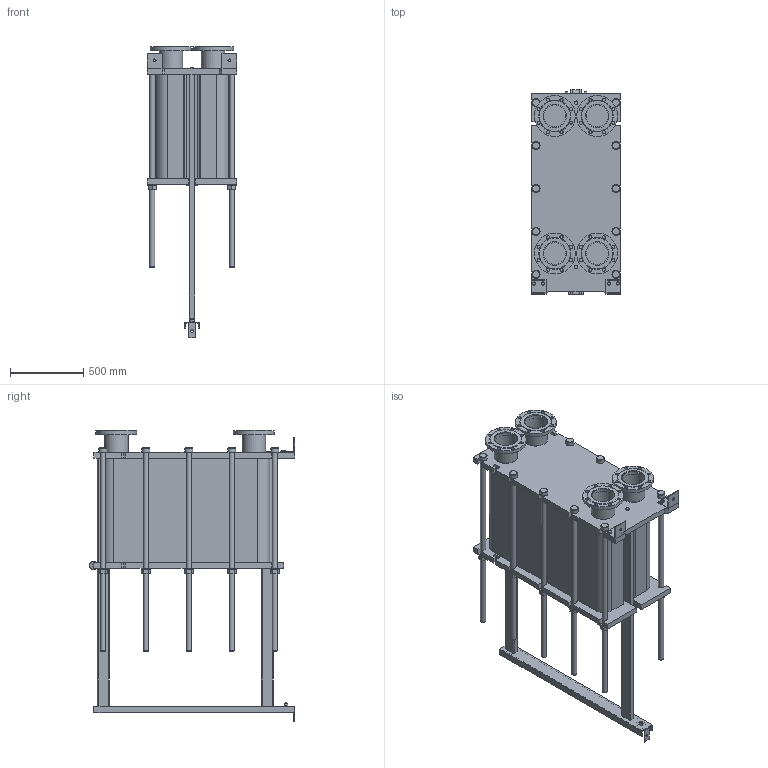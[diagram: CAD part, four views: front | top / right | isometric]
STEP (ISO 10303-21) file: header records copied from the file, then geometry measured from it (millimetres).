
FILE_DESCRIPTION(/* description */ (''),/* implementation_level */ '2;1');
FILE_NAME(/* name */ 'C:\Users\zhuro\Desktop\ENCO\TO\ЭН-041\ЭН-0,5-041-207-1.stp',/* time_stamp */ '2022-06-06T11:06:41+03:00',/* author */ ('zhuro'),/* organization */ (''),/* preprocessor_version */ 'ST-DEVELOPER v18.1',/* originating_system */ 'Autodesk Inventor 2022',/* authorisation */ '');
FILE_SCHEMA (('AUTOMOTIVE_DESIGN { 1 0 10303 214 3 1 1 }'));
Length unit declared in the file: millimetre
Products named in the file (1): ЭН-0,5-041-207-1
Bounding box: 610 x 1406.5 x 1992.5 mm (x, y, z)
Volume: 489656898.3 mm3; surface area: 11383773.4 mm2
Topology: 52 solids, 52 shells, 711 faces, 1696 edges, 1094 vertices
Faces by surface type: plane 487, cylinder 177, cone 41, torus 6
Full cylindrical faces by diameter (mm): 8 x4, 10 x2, 16 x8, 18 x3, 22 x32, 36 x24, 50 x1, 54 x10, 60 x12, 151 x4, 161 x8, 280 x4
Entity records: 22667 total; most frequent: CARTESIAN_POINT 5230, DIRECTION 3644, ORIENTED_EDGE 3392, EDGE_CURVE 1696, AXIS2_PLACEMENT_3D 1272, LINE 1100, VECTOR 1100, VERTEX_POINT 1094
